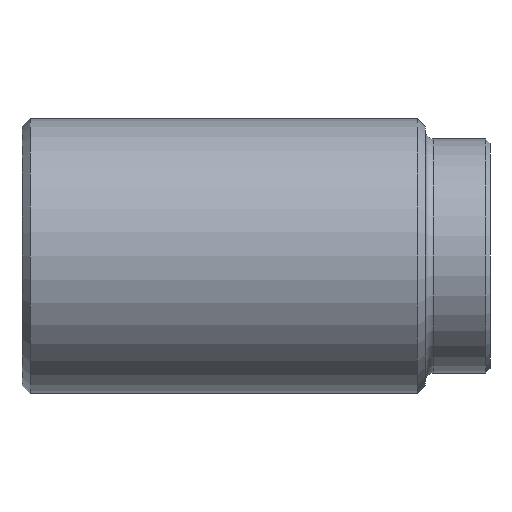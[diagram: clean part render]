
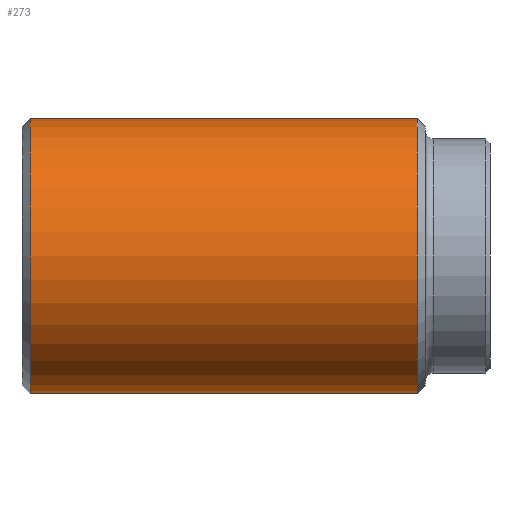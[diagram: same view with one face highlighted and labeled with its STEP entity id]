
A CAD part, left-side view. The second image highlights one B-rep face of the part: STEP entity #273.
In plain terms, the highlighted cylindrical face has radius 17 mm (diameter 34 mm), a partial arc.
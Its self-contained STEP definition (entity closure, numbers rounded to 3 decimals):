
#3 = CARTESIAN_POINT ( 'NONE',  ( 0., 9., 0. ) ) ;
#25 = ORIENTED_EDGE ( 'NONE', *, *, #64, .T. ) ;
#26 = LINE ( 'NONE', #489, #463 ) ;
#64 = EDGE_CURVE ( 'NONE', #120, #353, #26, .T. ) ;
#74 = CIRCLE ( 'NONE', #266, 17. ) ;
#78 = DIRECTION ( 'NONE',  ( 0., 0., 1. ) ) ;
#81 = DIRECTION ( 'NONE',  ( 0., 1., 0. ) ) ;
#90 = DIRECTION ( 'NONE',  ( 0., 1., 0. ) ) ;
#120 = VERTEX_POINT ( 'NONE', #480 ) ;
#136 = CARTESIAN_POINT ( 'NONE',  ( 0., 36.255, -17. ) ) ;
#137 = VERTEX_POINT ( 'NONE', #464 ) ;
#170 = VECTOR ( 'NONE', #90, 1000. ) ;
#172 = EDGE_CURVE ( 'NONE', #353, #322, #429, .T. ) ;
#184 = CARTESIAN_POINT ( 'NONE',  ( 0., 57., 17. ) ) ;
#185 = CARTESIAN_POINT ( 'NONE',  ( 0., 57., -17. ) ) ;
#187 = LINE ( 'NONE', #136, #170 ) ;
#217 = EDGE_LOOP ( 'NONE', ( #349, #504, #25, #284 ) ) ;
#266 = AXIS2_PLACEMENT_3D ( 'NONE', #3, #81, #78 ) ;
#273 = ADVANCED_FACE ( 'NONE', ( #297 ), #380, .T. ) ;
#284 = ORIENTED_EDGE ( 'NONE', *, *, #172, .T. ) ;
#297 = FACE_OUTER_BOUND ( 'NONE', #217, .T. ) ;
#322 = VERTEX_POINT ( 'NONE', #185 ) ;
#334 = DIRECTION ( 'NONE',  ( 0., 1., 0. ) ) ;
#349 = ORIENTED_EDGE ( 'NONE', *, *, #445, .F. ) ;
#353 = VERTEX_POINT ( 'NONE', #184 ) ;
#358 = CARTESIAN_POINT ( 'NONE',  ( 0., 36.255, 0. ) ) ;
#361 = AXIS2_PLACEMENT_3D ( 'NONE', #358, #362, #368 ) ;
#362 = DIRECTION ( 'NONE',  ( 0., 1., 0. ) ) ;
#368 = DIRECTION ( 'NONE',  ( 0., 0., 1. ) ) ;
#380 = CYLINDRICAL_SURFACE ( 'NONE', #361, 17. ) ;
#383 = AXIS2_PLACEMENT_3D ( 'NONE', #451, #443, #436 ) ;
#429 = CIRCLE ( 'NONE', #383, 17. ) ;
#436 = DIRECTION ( 'NONE',  ( 0., 0., -1. ) ) ;
#443 = DIRECTION ( 'NONE',  ( 0., -1., 0. ) ) ;
#445 = EDGE_CURVE ( 'NONE', #137, #322, #187, .T. ) ;
#451 = CARTESIAN_POINT ( 'NONE',  ( 0., 57., 0. ) ) ;
#463 = VECTOR ( 'NONE', #334, 1000. ) ;
#464 = CARTESIAN_POINT ( 'NONE',  ( 0., 9., -17. ) ) ;
#480 = CARTESIAN_POINT ( 'NONE',  ( 0., 9., 17. ) ) ;
#489 = CARTESIAN_POINT ( 'NONE',  ( 0., 36.255, 17. ) ) ;
#491 = EDGE_CURVE ( 'NONE', #137, #120, #74, .T. ) ;
#504 = ORIENTED_EDGE ( 'NONE', *, *, #491, .T. ) ;
